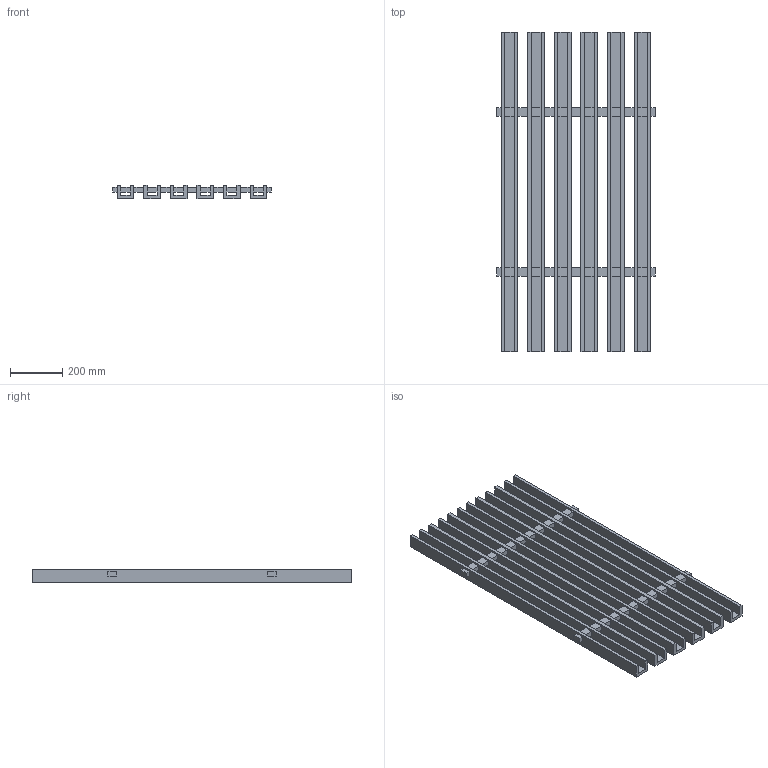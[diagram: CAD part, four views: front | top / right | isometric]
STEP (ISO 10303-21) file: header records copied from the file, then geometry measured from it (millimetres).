
FILE_DESCRIPTION(/* description */ (''),/* implementation_level */ '2;1');
FILE_NAME(/* name */ 'PET GRILLA_2.5x2_4ft',/* time_stamp */ '2024-10-15T14:21:35-05:00',/* author */ (''),/* organization */ (''),/* preprocessor_version */ 'ST-DEVELOPER v19.2',/* originating_system */ 'Rhino 8.4',/* authorisation */ '');
FILE_SCHEMA (('CONFIG_CONTROL_DESIGN'));
Length unit declared in the file: inch
Products named in the file (1): Document
Bounding box: 603.25 x 1219.2 x 50.8 mm (x, y, z)
Volume: 13523936.7 mm3; surface area: 2315963.1 mm2
Topology: 1 solids, 1 shells, 168 faces, 456 edges, 304 vertices
Faces by surface type: plane 168
Entity records: 4712 total; most frequent: CARTESIAN_POINT 1386, ORIENTED_EDGE 912, EDGE_CURVE 456, B_SPLINE_CURVE_WITH_KNOTS 456, VERTEX_POINT 304, EDGE_LOOP 216, DIRECTION 172, AXIS2_PLACEMENT_3D 170
